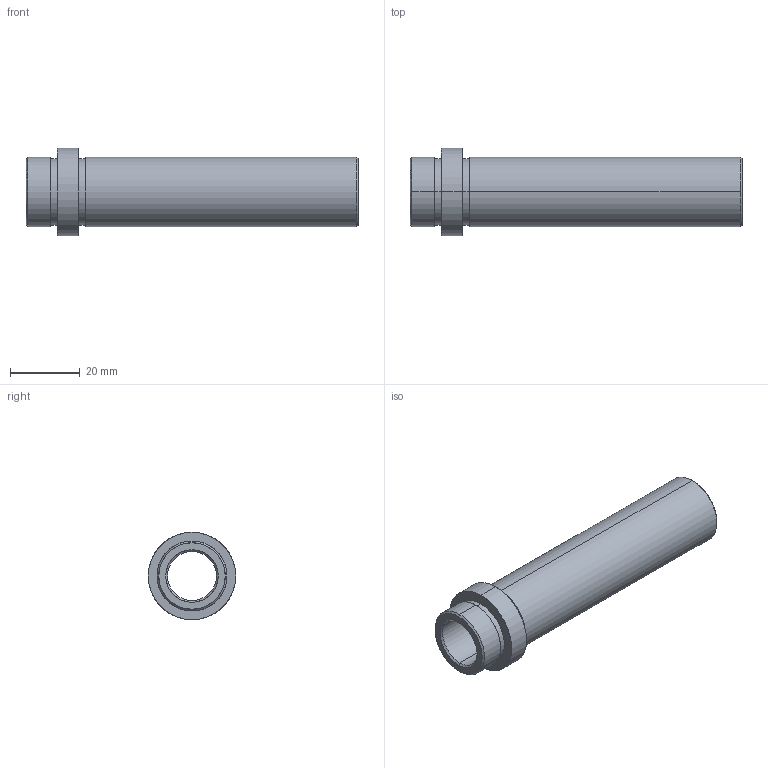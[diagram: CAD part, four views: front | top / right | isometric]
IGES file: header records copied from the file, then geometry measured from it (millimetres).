
Start section: SolidWorks IGES FILE using analytic representation for surfaces
Global section: file name: D:\zzzzz\Delta\D21\14\D21 - 14x86.IGS; native system: SolidWorks 2004 by SolidWorks Corporation; preprocessor: Version 5.3; author: Hkn; date: 080326.191330; units: millimetre
Bounding box: 95 x 25 x 25 mm (x, y, z)
Surface area: 10962.9 mm2 (no closed solid volume)
Topology: 0 solids, 0 shells, 26 faces, 464 edges, 464 vertices
Faces by surface type: revolution 20, bspline 6
